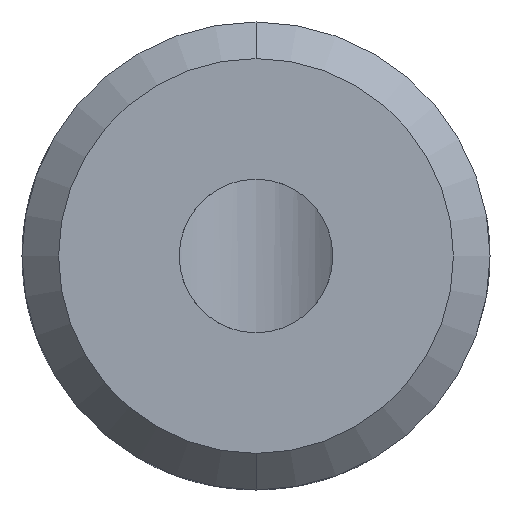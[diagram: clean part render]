
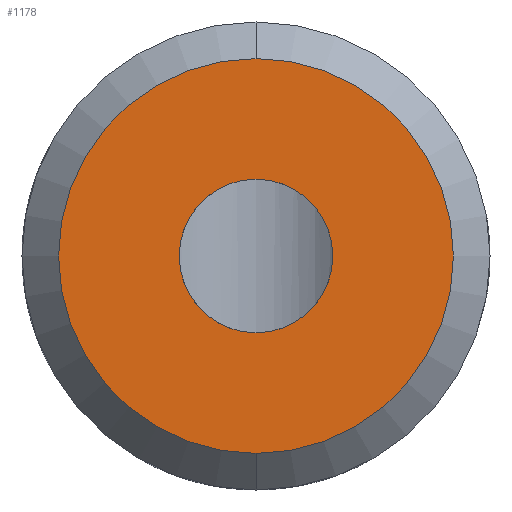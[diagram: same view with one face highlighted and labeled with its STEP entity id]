
A CAD part, front view. The second image highlights one B-rep face of the part: STEP entity #1178.
In plain terms, the highlighted planar face has unit normal (0, -1, 0).
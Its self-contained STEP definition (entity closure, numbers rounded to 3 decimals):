
#18 = DIRECTION ( 'NONE',  ( 0., -1., 0. ) ) ;
#48 = FACE_BOUND ( 'NONE', #1098, .T. ) ;
#52 = DIRECTION ( 'NONE',  ( 0., 0., -1. ) ) ;
#54 = DIRECTION ( 'NONE',  ( 0., 0., 1. ) ) ;
#59 = ORIENTED_EDGE ( 'NONE', *, *, #310, .T. ) ;
#78 = EDGE_LOOP ( 'NONE', ( #59, #134 ) ) ;
#81 = CARTESIAN_POINT ( 'NONE',  ( 0., 0., 0. ) ) ;
#134 = ORIENTED_EDGE ( 'NONE', *, *, #712, .T. ) ;
#160 = DIRECTION ( 'NONE',  ( 0., -1., 0. ) ) ;
#199 = EDGE_CURVE ( 'NONE', #1034, #608, #1173, .T. ) ;
#253 = PLANE ( 'NONE',  #512 ) ;
#255 = CARTESIAN_POINT ( 'NONE',  ( 0., 0., 0. ) ) ;
#258 = DIRECTION ( 'NONE',  ( 0., 0., 1. ) ) ;
#261 = DIRECTION ( 'NONE',  ( 0., 0., -1. ) ) ;
#300 = CIRCLE ( 'NONE', #1170, 13.5 ) ;
#310 = EDGE_CURVE ( 'NONE', #706, #429, #300, .T. ) ;
#331 = FACE_OUTER_BOUND ( 'NONE', #78, .T. ) ;
#353 = DIRECTION ( 'NONE',  ( 0., -1., 0. ) ) ;
#360 = AXIS2_PLACEMENT_3D ( 'NONE', #81, #160, #258 ) ;
#410 = ORIENTED_EDGE ( 'NONE', *, *, #413, .F. ) ;
#413 = EDGE_CURVE ( 'NONE', #608, #1034, #475, .T. ) ;
#429 = VERTEX_POINT ( 'NONE', #788 ) ;
#475 = CIRCLE ( 'NONE', #717, 5.25 ) ;
#492 = DIRECTION ( 'NONE',  ( 0., -1., 0. ) ) ;
#512 = AXIS2_PLACEMENT_3D ( 'NONE', #630, #1099, #54 ) ;
#533 = CIRCLE ( 'NONE', #360, 13.5 ) ;
#587 = CARTESIAN_POINT ( 'NONE',  ( 0., 0., 5.25 ) ) ;
#591 = CARTESIAN_POINT ( 'NONE',  ( 0., 0., 0. ) ) ;
#597 = DIRECTION ( 'NONE',  ( 0., 0., 1. ) ) ;
#608 = VERTEX_POINT ( 'NONE', #587 ) ;
#630 = CARTESIAN_POINT ( 'NONE',  ( 0., 0., 0. ) ) ;
#706 = VERTEX_POINT ( 'NONE', #1239 ) ;
#712 = EDGE_CURVE ( 'NONE', #429, #706, #533, .T. ) ;
#717 = AXIS2_PLACEMENT_3D ( 'NONE', #1029, #18, #52 ) ;
#788 = CARTESIAN_POINT ( 'NONE',  ( 0., 0., -13.5 ) ) ;
#1029 = CARTESIAN_POINT ( 'NONE',  ( 0., 0., 0. ) ) ;
#1034 = VERTEX_POINT ( 'NONE', #1052 ) ;
#1052 = CARTESIAN_POINT ( 'NONE',  ( 0., 0., -5.25 ) ) ;
#1098 = EDGE_LOOP ( 'NONE', ( #1216, #410 ) ) ;
#1099 = DIRECTION ( 'NONE',  ( 0., 1., 0. ) ) ;
#1127 = AXIS2_PLACEMENT_3D ( 'NONE', #255, #353, #261 ) ;
#1170 = AXIS2_PLACEMENT_3D ( 'NONE', #591, #492, #597 ) ;
#1173 = CIRCLE ( 'NONE', #1127, 5.25 ) ;
#1178 = ADVANCED_FACE ( 'NONE', ( #48, #331 ), #253, .F. ) ;
#1216 = ORIENTED_EDGE ( 'NONE', *, *, #199, .F. ) ;
#1239 = CARTESIAN_POINT ( 'NONE',  ( 0., 0., 13.5 ) ) ;
